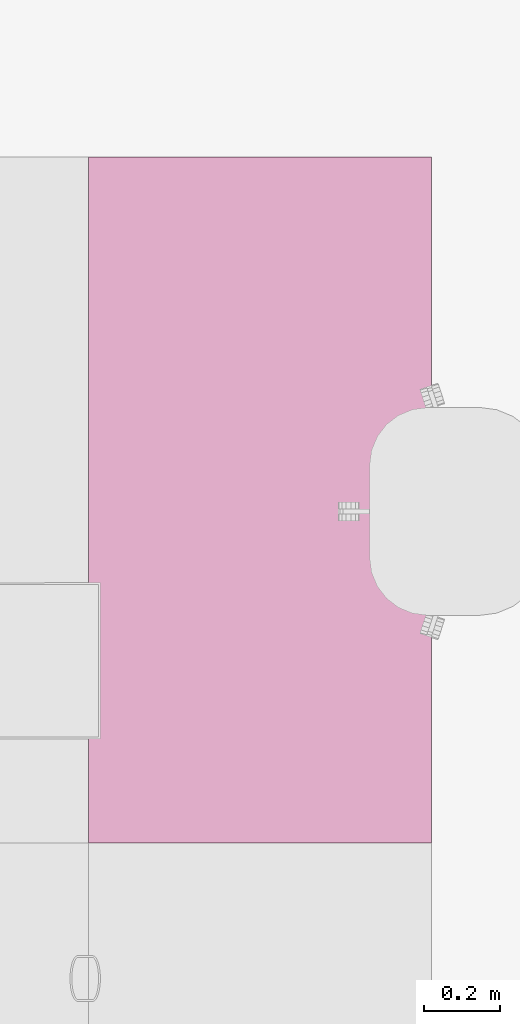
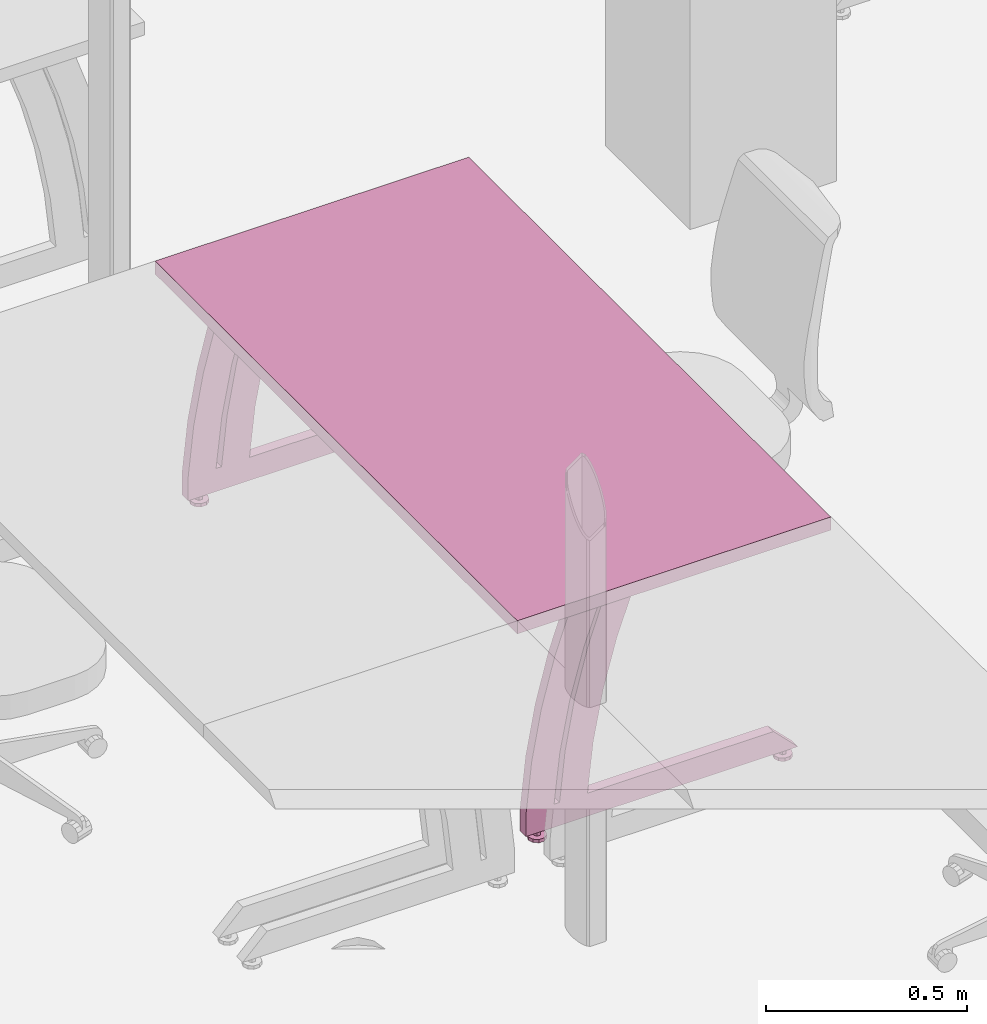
# One storey, part 115 of 128: 1 furnishing.
"""IFC2X3 building model written with IfcOpenShell, lengths in metres."""

from ifc_helpers import new_model, entity, si_unit, converted_unit, derived_unit, direction, frame, origin, place, context, subcontext, project, spatial, faceted_brep, source, transform, mapped, material, type_object, type_shapes, element, save


model = new_model("IFC2X3")

# Units and contexts
model_context = context("Model", 3, precision=1e-05, world=origin(), true_north=direction((6.123031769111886e-17, 1.0)))
body_context = subcontext(model_context, "Body", "Model", "MODEL_VIEW")
ifc_project = project(units=[si_unit("LENGTHUNIT", "METRE"), si_unit("AREAUNIT", "SQUARE_METRE"), converted_unit("PLANEANGLEUNIT", "DEGREE", entity("IfcPlaneAngleMeasure", 0.017453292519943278), si_unit("PLANEANGLEUNIT", "RADIAN"), dimensions=[0, 0, 0, 0, 0, 0, 0]), derived_unit("THERMALTRANSMITTANCEUNIT", [(si_unit("MASSUNIT", "GRAM", prefix="KILO"), 1), (si_unit("THERMODYNAMICTEMPERATUREUNIT", "KELVIN"), -1), (si_unit("TIMEUNIT", "SECOND"), -3)])], contexts=[model_context])

# Site, building, storey
site_placement = place(None, origin())
site = spatial("IfcSite", under=ifc_project, at=site_placement, Name="Default", CompositionType="ELEMENT")
building_placement = place(site_placement, origin())
building = spatial("IfcBuilding", under=site, at=building_placement, CompositionType="ELEMENT")
storey_placement = place(building_placement, origin())
storey = spatial("IfcBuildingStorey", under=building, at=storey_placement, Name="00_RDC CAF", CompositionType="ELEMENT", Elevation=2.4982504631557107e-13)

# Furnishing
ifc_material = material(Name="ARC - Mo - Blanc")
furniture_type = type_object("IfcFurnitureType", Name="Mo_Bureau:Mo_Bureau_1800x900mm", AssemblyPlace="NOTDEFINED", material=ifc_material)
shared_shape = source(origin(), body_context, "Body", "Brep", [
    faceted_brep([(0.05999999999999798, -0.7962325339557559, 0.0), (0.03622358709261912, -0.7885071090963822, 0.0), (0.0407644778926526, -0.7822571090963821, 0.0), (0.045305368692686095, -0.7760071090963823, 0.0), (0.05265268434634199, -0.7736198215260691, 0.0), (0.05999999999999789, -0.7712325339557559, 0.0), (0.0673473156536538, -0.7736198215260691, 0.0), (0.03622358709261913, -0.7962325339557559, 0.0), (0.03622358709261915, -0.8039579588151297, 0.0), (0.040764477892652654, -0.8102079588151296, 0.0), (0.04530536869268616, -0.8164579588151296, 0.0), (0.052652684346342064, -0.8188452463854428, 0.0), (0.05999999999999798, -0.8212325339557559, 0.0), (0.07469463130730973, -0.7760071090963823, 0.0), (0.07923552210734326, -0.7822571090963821, 0.0), (0.08377641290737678, -0.7885071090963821, 0.0), (0.08377641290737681, -0.7962325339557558, 0.0), (0.06734731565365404, -0.8188452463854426, 0.0), (0.07469463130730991, -0.8164579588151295, 0.0), (0.0792355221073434, -0.8102079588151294, 0.0), (0.08377641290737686, -0.8039579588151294, 0.0), (0.05999999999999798, -0.7962325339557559, 0.024999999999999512), (0.059999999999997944, -0.7862325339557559, 0.024999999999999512), (0.05133974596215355, -0.791232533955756, 0.024999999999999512), (0.05133974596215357, -0.801232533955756, 0.024999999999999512), (0.05999999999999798, -0.8062325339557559, 0.024999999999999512), (0.06866025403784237, -0.7912325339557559, 0.024999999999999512), (0.06866025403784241, -0.8012325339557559, 0.024999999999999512), (0.05133974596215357, -0.801232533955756, 0.01000000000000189), (0.05999999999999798, -0.8062325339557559, 0.01000000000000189), (0.05133974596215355, -0.791232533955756, 0.01000000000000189), (0.05999999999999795, -0.7862325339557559, 0.01000000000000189), (0.06866025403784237, -0.7912325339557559, 0.01000000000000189), (0.06866025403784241, -0.8012325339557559, 0.01000000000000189), (0.0599999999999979, -0.7712325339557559, 0.01000000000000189), (0.05554606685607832, -0.77267970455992, 0.01000000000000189), (0.05109213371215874, -0.774126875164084, 0.01000000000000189), (0.045305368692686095, -0.7760071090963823, 0.01000000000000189), (0.0673473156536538, -0.7736198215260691, 0.01000000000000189), (0.07469463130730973, -0.7760071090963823, 0.01000000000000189), (0.07923552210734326, -0.7822571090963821, 0.01000000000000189), (0.08377641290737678, -0.7885071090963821, 0.01000000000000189), (0.08377641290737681, -0.7962325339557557, 0.01000000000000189), (0.08377641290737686, -0.8039579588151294, 0.01000000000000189), (0.0792355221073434, -0.8102079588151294, 0.01000000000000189), (0.07469463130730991, -0.8164579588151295, 0.01000000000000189), (0.0689078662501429, -0.8183381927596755, 0.01000000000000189), (0.06445393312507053, -0.8197853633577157, 0.01000000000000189), (0.05999999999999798, -0.8212325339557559, 0.01000000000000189), (0.052652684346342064, -0.8188452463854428, 0.01000000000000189), (0.04530536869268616, -0.8164579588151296, 0.01000000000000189), (0.03622358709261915, -0.8039579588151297, 0.01000000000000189), (0.040764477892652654, -0.8102079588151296, 0.01000000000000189), (0.04076447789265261, -0.7822571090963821, 0.01000000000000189), (0.03622358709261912, -0.7885071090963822, 0.01000000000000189), (0.03622358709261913, -0.7962325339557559, 0.01000000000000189)], [[[0, 1, 2]], [[0, 2, 3]], [[0, 3, 4]], [[0, 4, 5]], [[0, 5, 6]], [[0, 7, 1]], [[0, 8, 7]], [[0, 9, 8]], [[0, 10, 9]], [[0, 11, 10]], [[0, 12, 11]], [[0, 6, 13]], [[0, 13, 14]], [[0, 14, 15]], [[0, 15, 16]], [[0, 17, 12]], [[0, 18, 17]], [[0, 19, 18]], [[0, 20, 19]], [[0, 16, 20]], [[21, 22, 23]], [[23, 24, 21]], [[24, 25, 21]], [[21, 26, 22]], [[25, 27, 21]], [[26, 21, 27]], [[25, 24, 28, 29]], [[24, 23, 30, 28]], [[23, 22, 31, 30]], [[22, 26, 32, 31]], [[26, 27, 33, 32]], [[27, 25, 29, 33]], [[31, 34, 35]], [[31, 35, 36]], [[31, 36, 37]], [[31, 37, 30]], [[31, 38, 34]], [[31, 39, 38]], [[32, 39, 31]], [[32, 40, 39]], [[32, 41, 40]], [[32, 42, 41]], [[32, 43, 42]], [[32, 33, 43]], [[33, 44, 43]], [[33, 45, 44]], [[33, 29, 45]], [[29, 46, 45]], [[29, 47, 46]], [[29, 48, 47]], [[29, 49, 48]], [[29, 50, 49]], [[29, 28, 50]], [[30, 51, 28]], [[28, 51, 52]], [[28, 52, 50]], [[30, 37, 53]], [[30, 53, 54]], [[30, 54, 55]], [[30, 55, 51]], [[11, 12, 48, 49, 50, 10]], [[8, 9, 10, 50, 52, 51]], [[7, 8, 51, 55, 54, 1]], [[3, 37, 36, 35, 34, 5, 4]], [[54, 53, 37, 3, 2, 1]], [[6, 5, 34, 38, 39, 13]], [[15, 14, 13, 39, 40, 41]], [[16, 15, 41, 42, 43, 20]], [[18, 45, 46, 47, 48, 12, 17]], [[43, 44, 45, 18, 19, 20]]]),
    faceted_brep([(0.05999999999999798, -0.09132706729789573, 0.0), (0.03622358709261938, -0.0836016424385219, 0.0), (0.04076447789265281, -0.07735164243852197, 0.0), (0.04530536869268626, -0.07110164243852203, 0.0), (0.052652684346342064, -0.06871435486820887, 0.0), (0.05999999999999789, -0.06632706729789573, 0.0), (0.06734731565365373, -0.06871435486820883, 0.0), (0.03622358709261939, -0.0913270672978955, 0.0), (0.0362235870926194, -0.09905249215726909, 0.0), (0.04076447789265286, -0.10530249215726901, 0.0), (0.04530536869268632, -0.11155249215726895, 0.0), (0.05265268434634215, -0.11393977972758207, 0.0), (0.05999999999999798, -0.11632706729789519, 0.0), (0.07469463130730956, -0.07110164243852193, 0.0), (0.07923552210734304, -0.07735164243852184, 0.0), (0.08377641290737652, -0.08360164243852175, 0.0), (0.08377641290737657, -0.09132706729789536, 0.0), (0.06734731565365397, -0.113939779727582, 0.0), (0.07469463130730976, -0.11155249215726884, 0.0), (0.07923552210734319, -0.10530249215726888, 0.0), (0.0837764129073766, -0.09905249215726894, 0.0), (0.05999999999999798, -0.09132706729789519, 0.024999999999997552), (0.059999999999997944, -0.0813270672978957, 0.024999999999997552), (0.051339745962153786, -0.08632706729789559, 0.024999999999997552), (0.05133974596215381, -0.09632706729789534, 0.024999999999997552), (0.05999999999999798, -0.10132706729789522, 0.024999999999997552), (0.06866025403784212, -0.08632706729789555, 0.024999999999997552), (0.06866025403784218, -0.09632706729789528, 0.024999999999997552), (0.05133974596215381, -0.09632706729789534, 0.009999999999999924), (0.05999999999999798, -0.10132706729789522, 0.009999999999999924), (0.051339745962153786, -0.08632706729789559, 0.009999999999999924), (0.05999999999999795, -0.0813270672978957, 0.009999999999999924), (0.06866025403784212, -0.08632706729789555, 0.009999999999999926), (0.06866025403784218, -0.09632706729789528, 0.009999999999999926), (0.05999999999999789, -0.06632706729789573, 0.009999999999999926), (0.055546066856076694, -0.06777423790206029, 0.009999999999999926), (0.051092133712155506, -0.06922140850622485, 0.009999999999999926), (0.04530536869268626, -0.07110164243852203, 0.009999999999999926), (0.06734731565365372, -0.06871435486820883, 0.009999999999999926), (0.07469463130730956, -0.07110164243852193, 0.009999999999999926), (0.07923552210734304, -0.07735164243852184, 0.009999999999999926), (0.08377641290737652, -0.08360164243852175, 0.009999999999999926), (0.08377641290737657, -0.09132706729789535, 0.009999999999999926), (0.0837764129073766, -0.09905249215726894, 0.009999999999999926), (0.07923552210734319, -0.10530249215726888, 0.009999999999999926), (0.07469463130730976, -0.11155249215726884, 0.009999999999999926), (0.06890786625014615, -0.11343272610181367, 0.009999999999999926), (0.06445393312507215, -0.11487989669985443, 0.009999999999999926), (0.05999999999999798, -0.11632706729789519, 0.009999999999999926), (0.05265268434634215, -0.11393977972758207, 0.009999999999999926), (0.04530536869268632, -0.11155249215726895, 0.009999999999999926), (0.0362235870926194, -0.09905249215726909, 0.009999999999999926), (0.04076447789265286, -0.10530249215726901, 0.009999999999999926), (0.04076447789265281, -0.07735164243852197, 0.009999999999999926), (0.03622358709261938, -0.0836016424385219, 0.009999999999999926), (0.03622358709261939, -0.0913270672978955, 0.009999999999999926)], [[[0, 1, 2]], [[0, 2, 3]], [[0, 3, 4]], [[0, 4, 5]], [[0, 5, 6]], [[0, 7, 1]], [[0, 8, 7]], [[0, 9, 8]], [[0, 10, 9]], [[0, 11, 10]], [[0, 12, 11]], [[0, 6, 13]], [[0, 13, 14]], [[0, 14, 15]], [[0, 15, 16]], [[0, 17, 12]], [[0, 18, 17]], [[0, 19, 18]], [[0, 20, 19]], [[0, 16, 20]], [[21, 22, 23]], [[23, 24, 21]], [[24, 25, 21]], [[21, 26, 22]], [[25, 27, 21]], [[26, 21, 27]], [[25, 24, 28, 29]], [[24, 23, 30, 28]], [[23, 22, 31, 30]], [[22, 26, 32, 31]], [[26, 27, 33, 32]], [[27, 25, 29, 33]], [[31, 34, 35]], [[31, 35, 36]], [[31, 36, 37]], [[31, 37, 30]], [[31, 38, 34]], [[31, 39, 38]], [[32, 39, 31]], [[32, 40, 39]], [[32, 41, 40]], [[32, 42, 41]], [[32, 43, 42]], [[32, 33, 43]], [[33, 44, 43]], [[33, 45, 44]], [[33, 29, 45]], [[29, 46, 45]], [[29, 47, 46]], [[29, 48, 47]], [[29, 49, 48]], [[29, 50, 49]], [[29, 28, 50]], [[30, 51, 28]], [[28, 51, 52]], [[28, 52, 50]], [[30, 37, 53]], [[30, 53, 54]], [[30, 54, 55]], [[30, 55, 51]], [[11, 12, 48, 49, 50, 10]], [[8, 9, 10, 50, 52, 51]], [[7, 8, 51, 55, 54, 1]], [[3, 37, 36, 35, 34, 5, 4]], [[54, 53, 37, 3, 2, 1]], [[6, 5, 34, 38, 39, 13]], [[15, 14, 13, 39, 40, 41]], [[16, 15, 41, 42, 43, 20]], [[18, 45, 46, 47, 48, 12, 17]], [[43, 44, 45, 18, 19, 20]]]),
    faceted_brep([(0.04499999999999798, -0.22742160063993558, 0.0950000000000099), (0.04499999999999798, -0.24409269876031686, 0.24614112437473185), (0.04499999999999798, -0.27271442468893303, 0.3954808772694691), (0.04499999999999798, -0.3131059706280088, 0.5420758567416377), (0.04499999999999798, -0.3650121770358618, 0.6849999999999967), (0.04499999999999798, -0.2788721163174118, 0.6849999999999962), (0.04499999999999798, -0.2291924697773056, 0.5416912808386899), (0.04499999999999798, -0.1905543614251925, 0.39501969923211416), (0.04499999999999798, -0.16318154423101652, 0.245834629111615), (0.04499999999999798, -0.14723253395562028, 0.09500000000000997), (0.07499999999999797, -0.3650121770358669, 0.6850000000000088), (0.07499999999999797, -0.3131059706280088, 0.5420758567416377), (0.07499999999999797, -0.27271442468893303, 0.3954808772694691), (0.07499999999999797, -0.24409269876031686, 0.24614112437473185), (0.07499999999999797, -0.22742160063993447, 0.09499999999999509), (0.07499999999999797, -0.14723253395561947, 0.0949999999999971), (0.07499999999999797, -0.16318154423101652, 0.245834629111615), (0.07499999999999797, -0.1905543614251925, 0.39501969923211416), (0.07499999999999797, -0.2291924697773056, 0.5416912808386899), (0.07499999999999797, -0.27887211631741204, 0.6849999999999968)], [[[0, 1, 2, 3, 4, 5, 6, 7, 8, 9]], [[10, 11, 12, 13, 14, 15, 16, 17, 18, 19]], [[10, 19, 5, 4]], [[3, 11, 10, 4]], [[2, 12, 11, 3]], [[0, 14, 13, 1]], [[12, 2, 1, 13]], [[15, 14, 0, 9]], [[8, 7, 17, 16]], [[15, 9, 8, 16]], [[6, 5, 19, 18]], [[6, 18, 17, 7]]]),
    faceted_brep([(0.04499999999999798, -0.13142160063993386, 0.09500000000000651), (0.04499999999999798, -0.14809269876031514, 0.24614112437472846), (0.04499999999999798, -0.1767144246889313, 0.39548087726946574), (0.04499999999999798, -0.21710597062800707, 0.5420758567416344), (0.04499999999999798, -0.26901217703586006, 0.6849999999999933), (0.04499999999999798, -0.18287211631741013, 0.6849999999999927), (0.04499999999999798, -0.13319246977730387, 0.5416912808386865), (0.04499999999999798, -0.09455436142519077, 0.3950196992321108), (0.04499999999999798, -0.0671815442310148, 0.2458346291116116), (0.04499999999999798, -0.05123253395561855, 0.09500000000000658), (0.07499999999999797, -0.2690121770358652, 0.6850000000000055), (0.07499999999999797, -0.21710597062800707, 0.5420758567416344), (0.07499999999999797, -0.1767144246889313, 0.39548087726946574), (0.07499999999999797, -0.14809269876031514, 0.24614112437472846), (0.07499999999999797, -0.1314216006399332, 0.09499999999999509), (0.07499999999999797, -0.05123253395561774, 0.09499999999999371), (0.07499999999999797, -0.0671815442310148, 0.2458346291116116), (0.07499999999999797, -0.09455436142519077, 0.3950196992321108), (0.07499999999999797, -0.13319246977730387, 0.5416912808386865), (0.07499999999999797, -0.18287211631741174, 0.684999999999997)], [[[0, 1, 2, 3, 4, 5, 6, 7, 8, 9]], [[10, 11, 12, 13, 14, 15, 16, 17, 18, 19]], [[10, 19, 5, 4]], [[3, 11, 10, 4]], [[2, 12, 11, 3]], [[0, 14, 13, 1]], [[12, 2, 1, 13]], [[15, 14, 0, 9]], [[8, 7, 17, 16]], [[15, 9, 8, 16]], [[6, 5, 19, 18]], [[6, 18, 17, 7]]]),
    faceted_brep([(0.04499999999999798, -0.0512325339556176, 0.0249999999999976), (0.04499999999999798, -0.8312325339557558, 0.0249999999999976), (0.04499999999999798, -0.7612325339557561, 0.09499999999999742), (0.04499999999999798, -0.05123253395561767, 0.09499999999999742), (0.07499999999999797, -0.0512325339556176, 0.0249999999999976), (0.07499999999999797, -0.05123253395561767, 0.09499999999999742), (0.07499999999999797, -0.7612325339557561, 0.09499999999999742), (0.07499999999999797, -0.8312325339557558, 0.0249999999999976)], [[[0, 1, 2, 3]], [[4, 5, 6, 7]], [[5, 4, 0, 3]], [[6, 5, 3, 2]], [[4, 7, 1, 0]], [[7, 6, 2, 1]]]),
    faceted_brep([(1.7399999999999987, -0.7962325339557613, 0.0), (1.71622358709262, -0.7885071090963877, 0.0), (1.7207644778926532, -0.7822571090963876, 0.0), (1.7253053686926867, -0.7760071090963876, 0.0), (1.7326526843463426, -0.7736198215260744, 0.0), (1.7399999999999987, -0.7712325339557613, 0.0), (1.7473473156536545, -0.7736198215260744, 0.0), (1.71622358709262, -0.7962325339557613, 0.0), (1.71622358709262, -0.803957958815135, 0.0), (1.7207644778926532, -0.8102079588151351, 0.0), (1.725305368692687, -0.816457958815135, 0.0), (1.7326526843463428, -0.8188452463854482, 0.0), (1.7399999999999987, -0.8212325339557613, 0.0), (1.7546946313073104, -0.7760071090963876, 0.0), (1.759235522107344, -0.7822571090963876, 0.0), (1.7637764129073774, -0.7885071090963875, 0.0), (1.7637764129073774, -0.7962325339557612, 0.0), (1.7473473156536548, -0.8188452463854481, 0.0), (1.7546946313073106, -0.8164579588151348, 0.0), (1.759235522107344, -0.8102079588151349, 0.0), (1.7637764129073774, -0.8039579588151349, 0.0), (1.7399999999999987, -0.7962325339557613, 0.024999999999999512), (1.7399999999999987, -0.7862325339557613, 0.024999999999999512), (1.731339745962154, -0.7912325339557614, 0.024999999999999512), (1.731339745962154, -0.8012325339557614, 0.024999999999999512), (1.7399999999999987, -0.8062325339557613, 0.024999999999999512), (1.748660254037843, -0.7912325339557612, 0.024999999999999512), (1.748660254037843, -0.8012325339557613, 0.024999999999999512), (1.731339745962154, -0.8012325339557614, 0.01000000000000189), (1.7399999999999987, -0.8062325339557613, 0.01000000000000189), (1.731339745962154, -0.7912325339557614, 0.01000000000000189), (1.7399999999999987, -0.7862325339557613, 0.01000000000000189), (1.748660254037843, -0.7912325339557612, 0.01000000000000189), (1.748660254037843, -0.8012325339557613, 0.01000000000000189), (1.7399999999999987, -0.7712325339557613, 0.01000000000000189), (1.735546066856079, -0.7726797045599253, 0.01000000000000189), (1.7310921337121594, -0.7741268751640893, 0.01000000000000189), (1.7253053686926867, -0.7760071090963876, 0.01000000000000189), (1.7473473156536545, -0.7736198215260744, 0.01000000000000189), (1.7546946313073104, -0.7760071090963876, 0.01000000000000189), (1.759235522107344, -0.7822571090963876, 0.01000000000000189), (1.7637764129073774, -0.7885071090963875, 0.01000000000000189), (1.7637764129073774, -0.7962325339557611, 0.01000000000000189), (1.7637764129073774, -0.8039579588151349, 0.01000000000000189), (1.759235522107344, -0.8102079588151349, 0.01000000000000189), (1.7546946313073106, -0.8164579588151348, 0.01000000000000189), (1.7489078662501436, -0.8183381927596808, 0.01000000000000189), (1.744453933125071, -0.8197853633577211, 0.01000000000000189), (1.7399999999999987, -0.8212325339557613, 0.01000000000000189), (1.7326526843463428, -0.8188452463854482, 0.01000000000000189), (1.725305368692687, -0.816457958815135, 0.01000000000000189), (1.71622358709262, -0.803957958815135, 0.01000000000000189), (1.7207644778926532, -0.8102079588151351, 0.01000000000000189), (1.7207644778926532, -0.7822571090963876, 0.01000000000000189), (1.71622358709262, -0.7885071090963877, 0.01000000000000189), (1.71622358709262, -0.7962325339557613, 0.01000000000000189)], [[[0, 1, 2]], [[0, 2, 3]], [[0, 3, 4]], [[0, 4, 5]], [[0, 5, 6]], [[0, 7, 1]], [[0, 8, 7]], [[0, 9, 8]], [[0, 10, 9]], [[0, 11, 10]], [[0, 12, 11]], [[0, 6, 13]], [[0, 13, 14]], [[0, 14, 15]], [[0, 15, 16]], [[0, 17, 12]], [[0, 18, 17]], [[0, 19, 18]], [[0, 20, 19]], [[0, 16, 20]], [[21, 22, 23]], [[23, 24, 21]], [[24, 25, 21]], [[21, 26, 22]], [[25, 27, 21]], [[26, 21, 27]], [[25, 24, 28, 29]], [[24, 23, 30, 28]], [[23, 22, 31, 30]], [[22, 26, 32, 31]], [[26, 27, 33, 32]], [[27, 25, 29, 33]], [[31, 34, 35]], [[31, 35, 36]], [[31, 36, 37]], [[31, 37, 30]], [[31, 38, 34]], [[31, 39, 38]], [[32, 39, 31]], [[32, 40, 39]], [[32, 41, 40]], [[32, 42, 41]], [[32, 43, 42]], [[32, 33, 43]], [[33, 44, 43]], [[33, 45, 44]], [[33, 29, 45]], [[29, 46, 45]], [[29, 47, 46]], [[29, 48, 47]], [[29, 49, 48]], [[29, 50, 49]], [[29, 28, 50]], [[30, 51, 28]], [[28, 51, 52]], [[28, 52, 50]], [[30, 37, 53]], [[30, 53, 54]], [[30, 54, 55]], [[30, 55, 51]], [[11, 12, 48, 49, 50, 10]], [[8, 9, 10, 50, 52, 51]], [[7, 8, 51, 55, 54, 1]], [[3, 37, 36, 35, 34, 5, 4]], [[54, 53, 37, 3, 2, 1]], [[6, 5, 34, 38, 39, 13]], [[15, 14, 13, 39, 40, 41]], [[16, 15, 41, 42, 43, 20]], [[18, 45, 46, 47, 48, 12, 17]], [[43, 44, 45, 18, 19, 20]]]),
    faceted_brep([(1.7399999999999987, -0.09132706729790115, 0.0), (1.7162235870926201, -0.08360164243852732, 0.0), (1.7207644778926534, -0.07735164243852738, 0.0), (1.725305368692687, -0.07110164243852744, 0.0), (1.7326526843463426, -0.06871435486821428, 0.0), (1.7399999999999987, -0.06632706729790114, 0.0), (1.7473473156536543, -0.06871435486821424, 0.0), (1.7162235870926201, -0.09132706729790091, 0.0), (1.7162235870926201, -0.0990524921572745, 0.0), (1.7207644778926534, -0.10530249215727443, 0.0), (1.725305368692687, -0.11155249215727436, 0.0), (1.7326526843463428, -0.11393977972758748, 0.0), (1.7399999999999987, -0.1163270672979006, 0.0), (1.7546946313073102, -0.07110164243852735, 0.0), (1.7592355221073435, -0.07735164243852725, 0.0), (1.7637764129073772, -0.08360164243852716, 0.0), (1.7637764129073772, -0.09132706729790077, 0.0), (1.7473473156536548, -0.11393977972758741, 0.0), (1.7546946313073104, -0.11155249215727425, 0.0), (1.7592355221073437, -0.10530249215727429, 0.0), (1.7637764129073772, -0.09905249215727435, 0.0), (1.7399999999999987, -0.0913270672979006, 0.024999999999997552), (1.7399999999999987, -0.08132706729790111, 0.024999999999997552), (1.7313397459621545, -0.08632706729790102, 0.024999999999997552), (1.7313397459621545, -0.09632706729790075, 0.024999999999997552), (1.7399999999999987, -0.10132706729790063, 0.024999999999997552), (1.7486602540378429, -0.08632706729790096, 0.024999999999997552), (1.7486602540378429, -0.0963270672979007, 0.024999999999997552), (1.7313397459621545, -0.09632706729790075, 0.009999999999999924), (1.7399999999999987, -0.10132706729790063, 0.009999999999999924), (1.7313397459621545, -0.08632706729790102, 0.009999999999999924), (1.7399999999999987, -0.08132706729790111, 0.009999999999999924), (1.7486602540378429, -0.08632706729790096, 0.009999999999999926), (1.7486602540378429, -0.0963270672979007, 0.009999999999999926), (1.7399999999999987, -0.06632706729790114, 0.009999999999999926), (1.7355460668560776, -0.0677742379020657, 0.009999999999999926), (1.7310921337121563, -0.06922140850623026, 0.009999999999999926), (1.725305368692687, -0.07110164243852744, 0.009999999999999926), (1.7473473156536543, -0.06871435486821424, 0.009999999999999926), (1.7546946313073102, -0.07110164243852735, 0.009999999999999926), (1.7592355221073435, -0.07735164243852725, 0.009999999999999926), (1.7637764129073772, -0.08360164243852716, 0.009999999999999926), (1.7637764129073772, -0.09132706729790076, 0.009999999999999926), (1.7637764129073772, -0.09905249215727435, 0.009999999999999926), (1.7592355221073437, -0.10530249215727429, 0.009999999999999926), (1.7546946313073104, -0.11155249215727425, 0.009999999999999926), (1.7489078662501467, -0.11343272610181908, 0.009999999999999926), (1.7444539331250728, -0.11487989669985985, 0.009999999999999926), (1.7399999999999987, -0.1163270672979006, 0.009999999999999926), (1.7326526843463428, -0.11393977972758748, 0.009999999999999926), (1.725305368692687, -0.11155249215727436, 0.009999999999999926), (1.7162235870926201, -0.0990524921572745, 0.009999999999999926), (1.7207644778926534, -0.10530249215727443, 0.009999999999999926), (1.7207644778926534, -0.07735164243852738, 0.009999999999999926), (1.7162235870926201, -0.08360164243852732, 0.009999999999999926), (1.7162235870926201, -0.09132706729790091, 0.009999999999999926)], [[[0, 1, 2]], [[0, 2, 3]], [[0, 3, 4]], [[0, 4, 5]], [[0, 5, 6]], [[0, 7, 1]], [[0, 8, 7]], [[0, 9, 8]], [[0, 10, 9]], [[0, 11, 10]], [[0, 12, 11]], [[0, 6, 13]], [[0, 13, 14]], [[0, 14, 15]], [[0, 15, 16]], [[0, 17, 12]], [[0, 18, 17]], [[0, 19, 18]], [[0, 20, 19]], [[0, 16, 20]], [[21, 22, 23]], [[23, 24, 21]], [[24, 25, 21]], [[21, 26, 22]], [[25, 27, 21]], [[26, 21, 27]], [[25, 24, 28, 29]], [[24, 23, 30, 28]], [[23, 22, 31, 30]], [[22, 26, 32, 31]], [[26, 27, 33, 32]], [[27, 25, 29, 33]], [[31, 34, 35]], [[31, 35, 36]], [[31, 36, 37]], [[31, 37, 30]], [[31, 38, 34]], [[31, 39, 38]], [[32, 39, 31]], [[32, 40, 39]], [[32, 41, 40]], [[32, 42, 41]], [[32, 43, 42]], [[32, 33, 43]], [[33, 44, 43]], [[33, 45, 44]], [[33, 29, 45]], [[29, 46, 45]], [[29, 47, 46]], [[29, 48, 47]], [[29, 49, 48]], [[29, 50, 49]], [[29, 28, 50]], [[30, 51, 28]], [[28, 51, 52]], [[28, 52, 50]], [[30, 37, 53]], [[30, 53, 54]], [[30, 54, 55]], [[30, 55, 51]], [[11, 12, 48, 49, 50, 10]], [[8, 9, 10, 50, 52, 51]], [[7, 8, 51, 55, 54, 1]], [[3, 37, 36, 35, 34, 5, 4]], [[54, 53, 37, 3, 2, 1]], [[6, 5, 34, 38, 39, 13]], [[15, 14, 13, 39, 40, 41]], [[16, 15, 41, 42, 43, 20]], [[18, 45, 46, 47, 48, 12, 17]], [[43, 44, 45, 18, 19, 20]]]),
    faceted_brep([(1.7249999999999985, -0.22742160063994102, 0.0950000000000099), (1.7249999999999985, -0.24409269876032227, 0.24614112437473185), (1.7249999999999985, -0.2727144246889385, 0.3954808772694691), (1.7249999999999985, -0.3131059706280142, 0.5420758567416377), (1.7249999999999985, -0.3650121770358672, 0.6849999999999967), (1.7249999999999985, -0.27887211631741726, 0.6849999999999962), (1.7249999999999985, -0.229192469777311, 0.5416912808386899), (1.7249999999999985, -0.1905543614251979, 0.39501969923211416), (1.7249999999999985, -0.16318154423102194, 0.245834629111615), (1.7249999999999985, -0.1472325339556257, 0.09500000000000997), (1.7549999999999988, -0.36501217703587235, 0.6850000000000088), (1.7549999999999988, -0.3131059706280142, 0.5420758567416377), (1.7549999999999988, -0.2727144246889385, 0.3954808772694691), (1.7549999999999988, -0.24409269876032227, 0.24614112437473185), (1.7549999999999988, -0.22742160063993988, 0.09499999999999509), (1.7549999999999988, -0.14723253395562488, 0.0949999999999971), (1.7549999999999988, -0.16318154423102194, 0.245834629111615), (1.7549999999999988, -0.1905543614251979, 0.39501969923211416), (1.7549999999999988, -0.229192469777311, 0.5416912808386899), (1.7549999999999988, -0.2788721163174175, 0.6849999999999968)], [[[0, 1, 2, 3, 4, 5, 6, 7, 8, 9]], [[10, 11, 12, 13, 14, 15, 16, 17, 18, 19]], [[10, 19, 5, 4]], [[3, 11, 10, 4]], [[2, 12, 11, 3]], [[0, 14, 13, 1]], [[12, 2, 1, 13]], [[15, 14, 0, 9]], [[8, 7, 17, 16]], [[15, 9, 8, 16]], [[6, 5, 19, 18]], [[6, 18, 17, 7]]]),
    faceted_brep([(1.7249999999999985, -0.13142160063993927, 0.09500000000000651), (1.7249999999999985, -0.14809269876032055, 0.24614112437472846), (1.7249999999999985, -0.17671442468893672, 0.39548087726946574), (1.7249999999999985, -0.2171059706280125, 0.5420758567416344), (1.7249999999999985, -0.2690121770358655, 0.6849999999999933), (1.7249999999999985, -0.18287211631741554, 0.6849999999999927), (1.7249999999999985, -0.13319246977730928, 0.5416912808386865), (1.7249999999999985, -0.09455436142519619, 0.3950196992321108), (1.7249999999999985, -0.06718154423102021, 0.2458346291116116), (1.7249999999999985, -0.051232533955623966, 0.09500000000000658), (1.7549999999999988, -0.2690121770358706, 0.6850000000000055), (1.7549999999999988, -0.2171059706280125, 0.5420758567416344), (1.7549999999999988, -0.17671442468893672, 0.39548087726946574), (1.7549999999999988, -0.14809269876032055, 0.24614112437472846), (1.7549999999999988, -0.1314216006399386, 0.09499999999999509), (1.7549999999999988, -0.051232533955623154, 0.09499999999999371), (1.7549999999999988, -0.06718154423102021, 0.2458346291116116), (1.7549999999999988, -0.09455436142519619, 0.3950196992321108), (1.7549999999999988, -0.13319246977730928, 0.5416912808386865), (1.7549999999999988, -0.18287211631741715, 0.684999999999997)], [[[0, 1, 2, 3, 4, 5, 6, 7, 8, 9]], [[10, 11, 12, 13, 14, 15, 16, 17, 18, 19]], [[10, 19, 5, 4]], [[3, 11, 10, 4]], [[2, 12, 11, 3]], [[0, 14, 13, 1]], [[12, 2, 1, 13]], [[15, 14, 0, 9]], [[8, 7, 17, 16]], [[15, 9, 8, 16]], [[6, 5, 19, 18]], [[6, 18, 17, 7]]]),
    faceted_brep([(1.7249999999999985, -0.051232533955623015, 0.0249999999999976), (1.7249999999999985, -0.8312325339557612, 0.0249999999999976), (1.7249999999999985, -0.7612325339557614, 0.09499999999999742), (1.7249999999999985, -0.051232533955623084, 0.09499999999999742), (1.7549999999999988, -0.051232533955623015, 0.0249999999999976), (1.7549999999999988, -0.051232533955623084, 0.09499999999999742), (1.7549999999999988, -0.7612325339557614, 0.09499999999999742), (1.7549999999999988, -0.8312325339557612, 0.0249999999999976)], [[[0, 1, 2, 3]], [[4, 5, 6, 7]], [[5, 4, 0, 3]], [[6, 5, 3, 2]], [[4, 7, 1, 0]], [[7, 6, 2, 1]]]),
    faceted_brep([(0.0, -0.8999999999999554, 0.685), (0.0, 0.0, 0.685), (1.7999999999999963, 0.0, 0.6849999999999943), (1.7999999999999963, -0.8999999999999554, 0.6849999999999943), (0.0, -0.8999999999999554, 0.7250000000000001), (1.7999999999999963, -0.8999999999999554, 0.7249999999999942), (1.7999999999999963, 0.0, 0.7249999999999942), (0.0, 0.0, 0.7250000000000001)], [[[0, 1, 2, 3]], [[4, 5, 6, 7]], [[5, 4, 0, 3]], [[6, 5, 3, 2]], [[7, 6, 2, 1]], [[4, 7, 1, 0]]]),
])
type_shapes(furniture_type, [shared_shape])
furnishing_placement = place(storey_placement, frame((40.7677319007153, 134.1727850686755, 0.0), z_axis=(0.0, 0.0, 1.0), x_axis=(0.0, 1.0, 0.0)))
element("IfcFurnishingElement", 1, at=furnishing_placement, inside=storey, type_object=furniture_type, material=ifc_material, Name="Mo_Bureau:Mo_Bureau_1800x900mm", ObjectType="Mo_Bureau:Mo_Bureau_1800x900mm", context=body_context, shape_type="MappedRepresentation", body=[
    mapped(shared_shape, transform((0.0, 0.0, 0.0), scale=1.0)),
])

save(model, "model.ifc")
